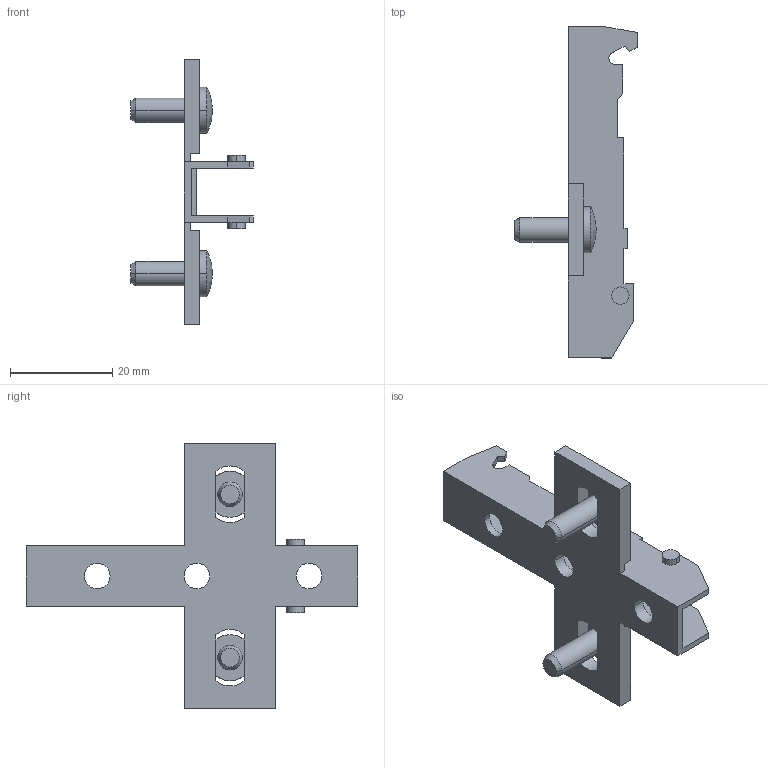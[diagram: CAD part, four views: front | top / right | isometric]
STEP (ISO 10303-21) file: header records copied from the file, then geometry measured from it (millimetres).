
FILE_DESCRIPTION (( 'STEP AP214' ), '1' );
FILE_NAME ('Eco Kreuzmontageplatte LR37_32_Euro_vorm. 13,5mm_H03.step', '2010-11-18T10:06:17', ( 'grass' ), ( '' ), 'SwSTEP 2.0', 'SolidWorks 2010', '' );
FILE_SCHEMA (( 'AUTOMOTIVE_DESIGN' ));
Length unit declared in the file: millimetre
Products named in the file (1): Eco Kreuzmontageplatte LR37_32_Euro_vorm. 13,5mm_H03
Bounding box: 24 x 65 x 52 mm (x, y, z)
Volume: 5214.2 mm3; surface area: 6685.4 mm2
Topology: 1 solids, 1 shells, 104 faces, 296 edges, 194 vertices
Faces by surface type: plane 70, cylinder 26, cone 4, sphere 4
Entity records: 3434 total; most frequent: CARTESIAN_POINT 595, ORIENTED_EDGE 592, DIRECTION 578, EDGE_CURVE 296, VECTOR 224, LINE 224, VERTEX_POINT 194, AXIS2_PLACEMENT_3D 177
